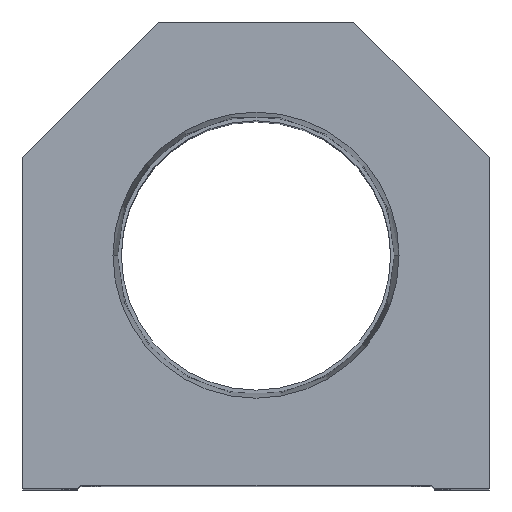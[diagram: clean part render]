
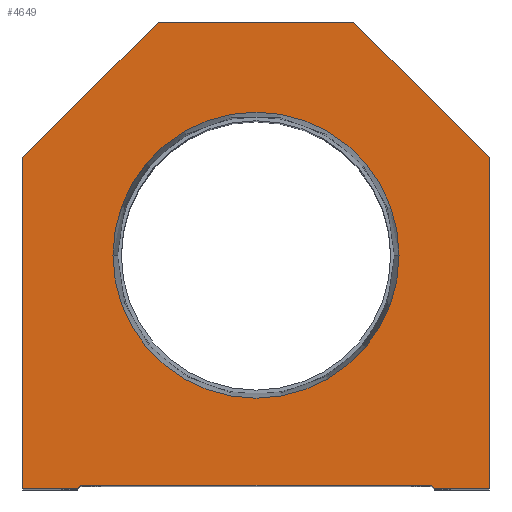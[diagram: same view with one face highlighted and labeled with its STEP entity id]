
A CAD part, top view. The second image highlights one B-rep face of the part: STEP entity #4649.
In plain terms, the highlighted planar face has unit normal (0, 0, 1).
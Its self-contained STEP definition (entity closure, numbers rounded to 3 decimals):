
#13 = DIRECTION ( 'NONE',  ( 1., 0., 0. ) ) ;
#57 = ORIENTED_EDGE ( 'NONE', *, *, #709, .F. ) ;
#106 = LINE ( 'NONE', #5236, #11256 ) ;
#307 = CARTESIAN_POINT ( 'NONE',  ( 16., 76.2, 0. ) ) ;
#462 = CARTESIAN_POINT ( 'NONE',  ( -14.55, 14.55, 0. ) ) ;
#565 = LINE ( 'NONE', #5525, #13549 ) ;
#709 = EDGE_CURVE ( 'NONE', #15800, #8056, #11450, .T. ) ;
#798 = CARTESIAN_POINT ( 'NONE',  ( -28.6, 0.5, 0. ) ) ;
#906 = VERTEX_POINT ( 'NONE', #5902 ) ;
#1034 = CARTESIAN_POINT ( 'NONE',  ( -16., 76.2, 0. ) ) ;
#1205 = VERTEX_POINT ( 'NONE', #9633 ) ;
#1335 = LINE ( 'NONE', #307, #3246 ) ;
#1503 = CARTESIAN_POINT ( 'NONE',  ( -38.1, 54.1, 0. ) ) ;
#1736 = VECTOR ( 'NONE', #5931, 1000. ) ;
#2353 = CARTESIAN_POINT ( 'NONE',  ( 0., 0., 0. ) ) ;
#2365 = CARTESIAN_POINT ( 'NONE',  ( 14.55, 14.55, 0. ) ) ;
#3055 = LINE ( 'NONE', #798, #13204 ) ;
#3096 = VECTOR ( 'NONE', #8494, 1000. ) ;
#3129 = ORIENTED_EDGE ( 'NONE', *, *, #3462, .T. ) ;
#3229 = CARTESIAN_POINT ( 'NONE',  ( -38.1, 0., 0. ) ) ;
#3246 = VECTOR ( 'NONE', #5430, 1000. ) ;
#3447 = CARTESIAN_POINT ( 'NONE',  ( -38.1, 0., 0. ) ) ;
#3462 = EDGE_CURVE ( 'NONE', #10277, #14353, #8208, .T. ) ;
#3612 = PLANE ( 'NONE',  #11390 ) ;
#3686 = EDGE_CURVE ( 'NONE', #14752, #11589, #12513, .T. ) ;
#3821 = DIRECTION ( 'NONE',  ( 1., 0., 0. ) ) ;
#4563 = VECTOR ( 'NONE', #14230, 1000. ) ;
#4649 = ADVANCED_FACE ( 'NONE', ( #13877, #13788 ), #3612, .T. ) ;
#4746 = CARTESIAN_POINT ( 'NONE',  ( -38.1, 54.1, 0. ) ) ;
#5236 = CARTESIAN_POINT ( 'NONE',  ( -28.6, 0., 0. ) ) ;
#5313 = ORIENTED_EDGE ( 'NONE', *, *, #11230, .T. ) ;
#5413 = EDGE_CURVE ( 'NONE', #10318, #906, #565, .T. ) ;
#5430 = DIRECTION ( 'NONE',  ( -1., 0., 0. ) ) ;
#5507 = ORIENTED_EDGE ( 'NONE', *, *, #8798, .T. ) ;
#5525 = CARTESIAN_POINT ( 'NONE',  ( 38.1, 0., 0. ) ) ;
#5871 = CARTESIAN_POINT ( 'NONE',  ( 16., 76.2, 0. ) ) ;
#5902 = CARTESIAN_POINT ( 'NONE',  ( 38.1, 54.1, 0. ) ) ;
#5931 = DIRECTION ( 'NONE',  ( 0.707, 0.707, 0. ) ) ;
#6335 = EDGE_CURVE ( 'NONE', #906, #9067, #11108, .T. ) ;
#6380 = ORIENTED_EDGE ( 'NONE', *, *, #11194, .F. ) ;
#6583 = DIRECTION ( 'NONE',  ( 0., 0., 1. ) ) ;
#6628 = DIRECTION ( 'NONE',  ( -0.707, -0.707, 0. ) ) ;
#6810 = ORIENTED_EDGE ( 'NONE', *, *, #8595, .T. ) ;
#6915 = EDGE_LOOP ( 'NONE', ( #5507, #3129, #9003, #5313, #6810, #9287, #9145, #9725, #12837, #15173 ) ) ;
#6976 = CARTESIAN_POINT ( 'NONE',  ( -28.6, 0.5, 0. ) ) ;
#7253 = CIRCLE ( 'NONE', #7525, 23.374 ) ;
#7419 = LINE ( 'NONE', #11034, #8029 ) ;
#7481 = DIRECTION ( 'NONE',  ( 0., 0., 1. ) ) ;
#7496 = LINE ( 'NONE', #2365, #4563 ) ;
#7525 = AXIS2_PLACEMENT_3D ( 'NONE', #9013, #10018, #13 ) ;
#8029 = VECTOR ( 'NONE', #8522, 1000. ) ;
#8056 = VERTEX_POINT ( 'NONE', #15386 ) ;
#8208 = LINE ( 'NONE', #462, #1736 ) ;
#8494 = DIRECTION ( 'NONE',  ( 0., -1., 0. ) ) ;
#8522 = DIRECTION ( 'NONE',  ( 1., 0., 0. ) ) ;
#8595 = EDGE_CURVE ( 'NONE', #16106, #10318, #7419, .T. ) ;
#8798 = EDGE_CURVE ( 'NONE', #11589, #10277, #106, .T. ) ;
#8977 = CARTESIAN_POINT ( 'NONE',  ( 23.374, 38.1, 0. ) ) ;
#9003 = ORIENTED_EDGE ( 'NONE', *, *, #13944, .T. ) ;
#9013 = CARTESIAN_POINT ( 'NONE',  ( 0., 38.1, 0. ) ) ;
#9067 = VERTEX_POINT ( 'NONE', #5871 ) ;
#9145 = ORIENTED_EDGE ( 'NONE', *, *, #6335, .T. ) ;
#9287 = ORIENTED_EDGE ( 'NONE', *, *, #5413, .T. ) ;
#9417 = EDGE_LOOP ( 'NONE', ( #57, #6380 ) ) ;
#9633 = CARTESIAN_POINT ( 'NONE',  ( 28.6, 0.5, 0. ) ) ;
#9725 = ORIENTED_EDGE ( 'NONE', *, *, #12079, .T. ) ;
#10018 = DIRECTION ( 'NONE',  ( 0., 0., 1. ) ) ;
#10277 = VERTEX_POINT ( 'NONE', #12976 ) ;
#10318 = VERTEX_POINT ( 'NONE', #14561 ) ;
#10372 = DIRECTION ( 'NONE',  ( 1., 0., 0. ) ) ;
#10790 = DIRECTION ( 'NONE',  ( 1., 0., 0. ) ) ;
#10796 = VECTOR ( 'NONE', #6628, 1000. ) ;
#11018 = CARTESIAN_POINT ( 'NONE',  ( 38.1, 54.1, 0. ) ) ;
#11034 = CARTESIAN_POINT ( 'NONE',  ( 28.6, 0., 0. ) ) ;
#11108 = LINE ( 'NONE', #11018, #15995 ) ;
#11194 = EDGE_CURVE ( 'NONE', #8056, #15800, #7253, .T. ) ;
#11230 = EDGE_CURVE ( 'NONE', #1205, #16106, #7496, .T. ) ;
#11256 = VECTOR ( 'NONE', #10372, 1000. ) ;
#11390 = AXIS2_PLACEMENT_3D ( 'NONE', #2353, #7481, #12593 ) ;
#11450 = CIRCLE ( 'NONE', #14667, 23.374 ) ;
#11589 = VERTEX_POINT ( 'NONE', #3229 ) ;
#12079 = EDGE_CURVE ( 'NONE', #9067, #15056, #1335, .T. ) ;
#12513 = LINE ( 'NONE', #3447, #3096 ) ;
#12593 = DIRECTION ( 'NONE',  ( 1., 0., 0. ) ) ;
#12812 = CARTESIAN_POINT ( 'NONE',  ( 0., 38.1, 0. ) ) ;
#12837 = ORIENTED_EDGE ( 'NONE', *, *, #15604, .T. ) ;
#12976 = CARTESIAN_POINT ( 'NONE',  ( -29.1, 0., 0. ) ) ;
#13023 = LINE ( 'NONE', #1503, #10796 ) ;
#13204 = VECTOR ( 'NONE', #10790, 1000. ) ;
#13549 = VECTOR ( 'NONE', #14535, 1000. ) ;
#13788 = FACE_OUTER_BOUND ( 'NONE', #6915, .T. ) ;
#13877 = FACE_BOUND ( 'NONE', #9417, .T. ) ;
#13944 = EDGE_CURVE ( 'NONE', #14353, #1205, #3055, .T. ) ;
#14230 = DIRECTION ( 'NONE',  ( 0.707, -0.707, 0. ) ) ;
#14353 = VERTEX_POINT ( 'NONE', #6976 ) ;
#14535 = DIRECTION ( 'NONE',  ( 0., 1., 0. ) ) ;
#14561 = CARTESIAN_POINT ( 'NONE',  ( 38.1, 0., 0. ) ) ;
#14667 = AXIS2_PLACEMENT_3D ( 'NONE', #12812, #6583, #3821 ) ;
#14752 = VERTEX_POINT ( 'NONE', #4746 ) ;
#14971 = DIRECTION ( 'NONE',  ( -0.707, 0.707, 0. ) ) ;
#15056 = VERTEX_POINT ( 'NONE', #1034 ) ;
#15173 = ORIENTED_EDGE ( 'NONE', *, *, #3686, .T. ) ;
#15386 = CARTESIAN_POINT ( 'NONE',  ( -23.374, 38.1, 0. ) ) ;
#15604 = EDGE_CURVE ( 'NONE', #15056, #14752, #13023, .T. ) ;
#15800 = VERTEX_POINT ( 'NONE', #8977 ) ;
#15853 = CARTESIAN_POINT ( 'NONE',  ( 29.1, 0., 0. ) ) ;
#15995 = VECTOR ( 'NONE', #14971, 1000. ) ;
#16106 = VERTEX_POINT ( 'NONE', #15853 ) ;
